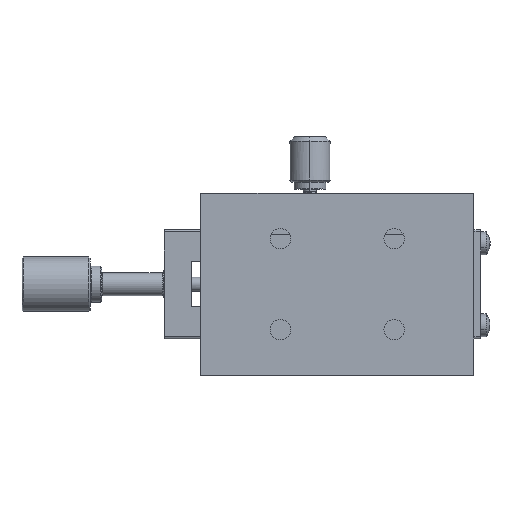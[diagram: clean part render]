
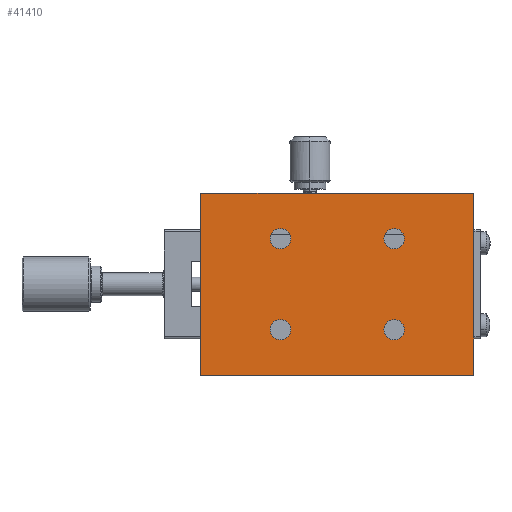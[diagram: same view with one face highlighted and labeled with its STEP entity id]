
A CAD part, front view. The second image highlights one B-rep face of the part: STEP entity #41410.
In plain terms, the highlighted planar face has unit normal (0, -1, 0).
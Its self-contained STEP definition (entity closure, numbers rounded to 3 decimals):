
#19 = EDGE_LOOP ( 'NONE', ( #42779, #22032 ) ) ;
#489 = EDGE_CURVE ( 'NONE', #46571, #11688, #50216, .T. ) ;
#567 = DIRECTION ( 'NONE',  ( 0., 1., 0. ) ) ;
#851 = DIRECTION ( 'NONE',  ( -1., 0., 0. ) ) ;
#941 = EDGE_CURVE ( 'NONE', #11688, #11753, #32626, .T. ) ;
#1513 = AXIS2_PLACEMENT_3D ( 'NONE', #58043, #35490, #49140 ) ;
#1648 = AXIS2_PLACEMENT_3D ( 'NONE', #35433, #47906, #7266 ) ;
#2506 = CIRCLE ( 'NONE', #1513, 2.25 ) ;
#3891 = ORIENTED_EDGE ( 'NONE', *, *, #16746, .T. ) ;
#4173 = VERTEX_POINT ( 'NONE', #19265 ) ;
#4635 = DIRECTION ( 'NONE',  ( 0., 1., 0. ) ) ;
#4737 = FACE_OUTER_BOUND ( 'NONE', #36911, .T. ) ;
#5011 = LINE ( 'NONE', #24888, #16773 ) ;
#5415 = AXIS2_PLACEMENT_3D ( 'NONE', #39588, #52946, #7556 ) ;
#5988 = DIRECTION ( 'NONE',  ( 0., 0., 1. ) ) ;
#7266 = DIRECTION ( 'NONE',  ( 0., 0., 1. ) ) ;
#7556 = DIRECTION ( 'NONE',  ( 0., 0., 1. ) ) ;
#8039 = ORIENTED_EDGE ( 'NONE', *, *, #941, .F. ) ;
#8506 = CARTESIAN_POINT ( 'NONE',  ( 12.5, 0., 10. ) ) ;
#9157 = AXIS2_PLACEMENT_3D ( 'NONE', #18358, #36472, #23105 ) ;
#9567 = DIRECTION ( 'NONE',  ( 0., 0., -1. ) ) ;
#9746 = CARTESIAN_POINT ( 'NONE',  ( -12.5, 0., 7.75 ) ) ;
#10463 = CARTESIAN_POINT ( 'NONE',  ( -12.5, 0., -10. ) ) ;
#11688 = VERTEX_POINT ( 'NONE', #44022 ) ;
#11753 = VERTEX_POINT ( 'NONE', #49243 ) ;
#12169 = EDGE_CURVE ( 'NONE', #20376, #4173, #53765, .T. ) ;
#12675 = VERTEX_POINT ( 'NONE', #56771 ) ;
#13571 = AXIS2_PLACEMENT_3D ( 'NONE', #41902, #28258, #24089 ) ;
#13952 = CARTESIAN_POINT ( 'NONE',  ( 30., 0., -20. ) ) ;
#14010 = CARTESIAN_POINT ( 'NONE',  ( -12.5, 0., -12.25 ) ) ;
#14045 = DIRECTION ( 'NONE',  ( 0., 0., -1. ) ) ;
#16746 = EDGE_CURVE ( 'NONE', #46992, #12675, #48007, .T. ) ;
#16773 = VECTOR ( 'NONE', #851, 1000. ) ;
#17440 = EDGE_CURVE ( 'NONE', #4173, #20376, #42618, .T. ) ;
#17755 = DIRECTION ( 'NONE',  ( 0., 0., 1. ) ) ;
#18286 = DIRECTION ( 'NONE',  ( 0., 0., 1. ) ) ;
#18358 = CARTESIAN_POINT ( 'NONE',  ( 12.5, 0., 10. ) ) ;
#18523 = CARTESIAN_POINT ( 'NONE',  ( 30., 0., 20. ) ) ;
#18578 = VERTEX_POINT ( 'NONE', #9746 ) ;
#19246 = EDGE_CURVE ( 'NONE', #18578, #20807, #26318, .T. ) ;
#19265 = CARTESIAN_POINT ( 'NONE',  ( 12.5, 0., -7.75 ) ) ;
#19521 = ORIENTED_EDGE ( 'NONE', *, *, #23072, .T. ) ;
#19542 = ORIENTED_EDGE ( 'NONE', *, *, #12169, .T. ) ;
#20376 = VERTEX_POINT ( 'NONE', #27947 ) ;
#20807 = VERTEX_POINT ( 'NONE', #22845 ) ;
#21927 = VERTEX_POINT ( 'NONE', #35039 ) ;
#21964 = CARTESIAN_POINT ( 'NONE',  ( 12.5, 0., 7.75 ) ) ;
#22032 = ORIENTED_EDGE ( 'NONE', *, *, #36927, .T. ) ;
#22681 = VECTOR ( 'NONE', #14045, 1000. ) ;
#22791 = VECTOR ( 'NONE', #9567, 1000. ) ;
#22845 = CARTESIAN_POINT ( 'NONE',  ( -12.5, 0., 12.25 ) ) ;
#23036 = ORIENTED_EDGE ( 'NONE', *, *, #489, .F. ) ;
#23072 = EDGE_CURVE ( 'NONE', #28850, #11753, #49936, .T. ) ;
#23105 = DIRECTION ( 'NONE',  ( 0., 0., 1. ) ) ;
#24089 = DIRECTION ( 'NONE',  ( 0., 0., 1. ) ) ;
#24316 = EDGE_CURVE ( 'NONE', #20807, #18578, #2506, .T. ) ;
#24888 = CARTESIAN_POINT ( 'NONE',  ( 30., 0., 20. ) ) ;
#24995 = EDGE_LOOP ( 'NONE', ( #55102, #53627 ) ) ;
#25304 = EDGE_CURVE ( 'NONE', #21927, #50682, #34740, .T. ) ;
#25851 = CARTESIAN_POINT ( 'NONE',  ( -30., 0., 20. ) ) ;
#26318 = CIRCLE ( 'NONE', #1648, 2.25 ) ;
#26931 = AXIS2_PLACEMENT_3D ( 'NONE', #8506, #4635, #18286 ) ;
#27312 = FACE_BOUND ( 'NONE', #24995, .T. ) ;
#27394 = CARTESIAN_POINT ( 'NONE',  ( 30., 0., 20. ) ) ;
#27702 = CARTESIAN_POINT ( 'NONE',  ( -30., 0., 20. ) ) ;
#27947 = CARTESIAN_POINT ( 'NONE',  ( 12.5, 0., -12.25 ) ) ;
#28258 = DIRECTION ( 'NONE',  ( 0., 1., 0. ) ) ;
#28850 = VERTEX_POINT ( 'NONE', #25851 ) ;
#31153 = CARTESIAN_POINT ( 'NONE',  ( 30., 0., 20. ) ) ;
#31446 = PLANE ( 'NONE',  #53675 ) ;
#31696 = CARTESIAN_POINT ( 'NONE',  ( 12.5, 0., -10. ) ) ;
#32509 = CIRCLE ( 'NONE', #13571, 2.25 ) ;
#32626 = LINE ( 'NONE', #13952, #48366 ) ;
#34740 = CIRCLE ( 'NONE', #9157, 2.25 ) ;
#35039 = CARTESIAN_POINT ( 'NONE',  ( 12.5, 0., 12.25 ) ) ;
#35433 = CARTESIAN_POINT ( 'NONE',  ( -12.5, 0., 10. ) ) ;
#35490 = DIRECTION ( 'NONE',  ( 0., 1., 0. ) ) ;
#36456 = DIRECTION ( 'NONE',  ( 0., 1., 0. ) ) ;
#36472 = DIRECTION ( 'NONE',  ( 0., 1., 0. ) ) ;
#36911 = EDGE_LOOP ( 'NONE', ( #19521, #8039, #23036, #50744 ) ) ;
#36927 = EDGE_CURVE ( 'NONE', #50682, #21927, #49653, .T. ) ;
#37563 = ORIENTED_EDGE ( 'NONE', *, *, #17440, .T. ) ;
#38173 = ORIENTED_EDGE ( 'NONE', *, *, #57359, .T. ) ;
#39588 = CARTESIAN_POINT ( 'NONE',  ( 12.5, 0., -10. ) ) ;
#40427 = AXIS2_PLACEMENT_3D ( 'NONE', #10463, #47814, #5988 ) ;
#41410 = ADVANCED_FACE ( 'NONE', ( #27312, #45670, #49244, #53997, #4737 ), #31446, .F. ) ;
#41902 = CARTESIAN_POINT ( 'NONE',  ( -12.5, 0., -10. ) ) ;
#42328 = EDGE_LOOP ( 'NONE', ( #37563, #19542 ) ) ;
#42618 = CIRCLE ( 'NONE', #50203, 2.25 ) ;
#42779 = ORIENTED_EDGE ( 'NONE', *, *, #25304, .T. ) ;
#42961 = EDGE_CURVE ( 'NONE', #46571, #28850, #5011, .T. ) ;
#44022 = CARTESIAN_POINT ( 'NONE',  ( 30., 0., -20. ) ) ;
#44495 = DIRECTION ( 'NONE',  ( 0., 0., 1. ) ) ;
#45670 = FACE_BOUND ( 'NONE', #19, .T. ) ;
#46571 = VERTEX_POINT ( 'NONE', #18523 ) ;
#46992 = VERTEX_POINT ( 'NONE', #14010 ) ;
#47814 = DIRECTION ( 'NONE',  ( 0., 1., 0. ) ) ;
#47906 = DIRECTION ( 'NONE',  ( 0., 1., 0. ) ) ;
#48007 = CIRCLE ( 'NONE', #40427, 2.25 ) ;
#48366 = VECTOR ( 'NONE', #50726, 1000. ) ;
#48812 = EDGE_LOOP ( 'NONE', ( #38173, #3891 ) ) ;
#49140 = DIRECTION ( 'NONE',  ( 0., 0., 1. ) ) ;
#49243 = CARTESIAN_POINT ( 'NONE',  ( -30., 0., -20. ) ) ;
#49244 = FACE_BOUND ( 'NONE', #42328, .T. ) ;
#49653 = CIRCLE ( 'NONE', #26931, 2.25 ) ;
#49936 = LINE ( 'NONE', #27702, #22681 ) ;
#50203 = AXIS2_PLACEMENT_3D ( 'NONE', #31696, #36456, #17755 ) ;
#50216 = LINE ( 'NONE', #27394, #22791 ) ;
#50682 = VERTEX_POINT ( 'NONE', #21964 ) ;
#50726 = DIRECTION ( 'NONE',  ( -1., 0., 0. ) ) ;
#50744 = ORIENTED_EDGE ( 'NONE', *, *, #42961, .T. ) ;
#52946 = DIRECTION ( 'NONE',  ( 0., 1., 0. ) ) ;
#53627 = ORIENTED_EDGE ( 'NONE', *, *, #19246, .T. ) ;
#53675 = AXIS2_PLACEMENT_3D ( 'NONE', #31153, #567, #44495 ) ;
#53765 = CIRCLE ( 'NONE', #5415, 2.25 ) ;
#53997 = FACE_BOUND ( 'NONE', #48812, .T. ) ;
#55102 = ORIENTED_EDGE ( 'NONE', *, *, #24316, .T. ) ;
#56771 = CARTESIAN_POINT ( 'NONE',  ( -12.5, 0., -7.75 ) ) ;
#57359 = EDGE_CURVE ( 'NONE', #12675, #46992, #32509, .T. ) ;
#58043 = CARTESIAN_POINT ( 'NONE',  ( -12.5, 0., 10. ) ) ;
